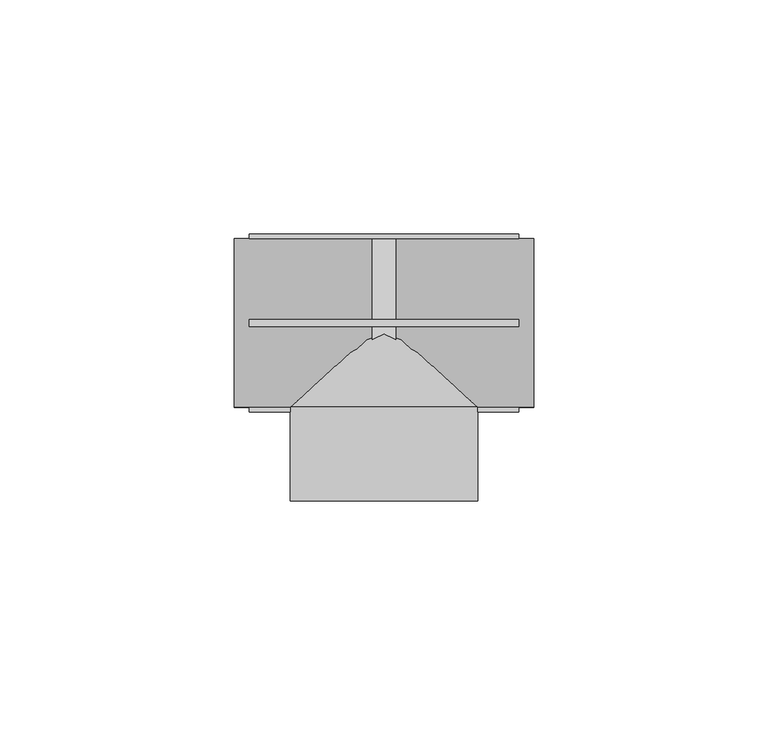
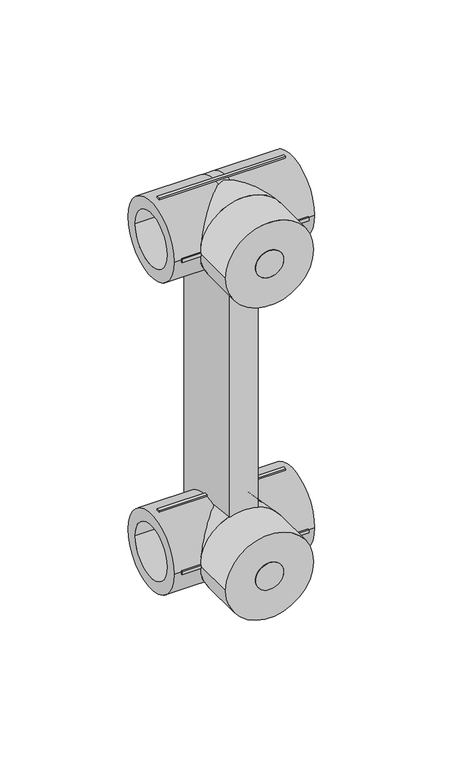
"""IFC4 building model written with IfcOpenShell, lengths in millimetres: pipe fitting geometry, EGB_VASEN_ PPR_Colector de conexion WXR307 : Colector de conexión WXR307."""

from ifc_helpers import new_model, si_unit, point, frame, frame_2d, origin, origin_2d, place, context, project, spatial, polyline, circle_curve, trimmed, segment, composite_curve, outline, extrude, source, transform, mapped, element, save
from ifc_brep_helpers import plane_surface, cylinder_surface, revolved_surface, advanced_brep


def pipe_fitting_d2e0c971(model_context):
    return source(origin(), model_context, "Body", "SolidModel", [
        extrude(outline(composite_curve([segment(trimmed(circle_curve(frame_2d((150.0, 0.0)), 6.35), [point((143.65, 0.0))], [point((156.35, 0.0))], False, "CARTESIAN"), True, "CONTINUOUS"), segment(trimmed(circle_curve(frame_2d((150.0, 0.0)), 6.35), [point((156.35, 0.0))], [point((143.65, 0.0))], False, "CARTESIAN"), True, "CONTINUOUS")], self_intersect=False)), frame((0.0, -38.0, 0.0), z_axis=(0.0, 1.0, 0.0), x_axis=(0.0, 0.0, 1.0)), (0.0, 0.0, 1.0), 20.0),
        advanced_brep(
        [(2.56, -12.5, 150.0), (2.56, 12.5, 150.0), (-2.56, 12.5, 150.0), (-2.56, -12.5, 150.0), (-2.56, 18.0, 150.0), (2.56, 18.0, 150.0), (2.56, -18.0, 150.0), (-2.56, -18.0, 150.0), (32.0, -18.0, 150.0), (32.0, 18.0, 150.0), (32.0, -12.5, 150.0), (32.0, 12.5, 150.0), (-32.0, -18.0, 150.0), (-32.0, 18.0, 150.0), (-32.0, -12.5, 150.0), (-32.0, 12.5, 150.0)],
        [
            (0, 1, circle_curve(frame((2.56, 0.0, 150.0), z_axis=(1.0, 0.0, 0.0), x_axis=(0.0, 1.0, 0.0)), 12.5)),
            (1, 0, circle_curve(frame((2.56, 0.0, 150.0), z_axis=(1.0, 0.0, 0.0), x_axis=(0.0, 1.0, 0.0)), 12.5)),
            (2, 3, circle_curve(frame((-2.56, 0.0, 150.0), z_axis=(-1.0, 0.0, 0.0), x_axis=(0.0, 1.0, 0.0)), 12.5)),
            (3, 2, circle_curve(frame((-2.56, 0.0, 150.0), z_axis=(-1.0, 0.0, 0.0), x_axis=(0.0, 1.0, 0.0)), 12.5)),
            (4, 5),
            (5, 6, circle_curve(frame((2.56, 0.0, 150.0), z_axis=(-1.0, 0.0, 0.0), x_axis=(0.0, 0.0, -1.0)), 18.0)),
            (6, 7),
            (7, 4, circle_curve(frame((-2.56, 0.0, 150.0), z_axis=(1.0, 0.0, 0.0), x_axis=(0.0, 0.0, -1.0)), 18.0)),
            (4, 7, circle_curve(frame((-2.56, 0.0, 150.0), z_axis=(1.0, 0.0, 0.0), x_axis=(0.0, 0.0, 1.0)), 18.0)),
            (6, 5, circle_curve(frame((2.56, 0.0, 150.0), z_axis=(-1.0, 0.0, 0.0), x_axis=(0.0, 0.0, 1.0)), 18.0)),
            (8, 9, circle_curve(frame((32.0, 0.0, 150.0), z_axis=(1.0, 0.0, 0.0), x_axis=(0.0, 1.0, 0.0)), 18.0)),
            (9, 8, circle_curve(frame((32.0, 0.0, 150.0), z_axis=(1.0, 0.0, 0.0), x_axis=(0.0, 1.0, 0.0)), 18.0)),
            (10, 11, circle_curve(frame((32.0, 0.0, 150.0), z_axis=(-1.0, 0.0, 0.0), x_axis=(0.0, 1.0, 0.0)), 12.5)),
            (11, 10, circle_curve(frame((32.0, 0.0, 150.0), z_axis=(-1.0, 0.0, 0.0), x_axis=(0.0, 1.0, 0.0)), 12.5)),
            (9, 5),
            (6, 8),
            (11, 1),
            (0, 10),
            (12, 13, circle_curve(frame((-32.0, 0.0, 150.0), z_axis=(-1.0, 0.0, 0.0), x_axis=(0.0, 1.0, 0.0)), 18.0)),
            (13, 12, circle_curve(frame((-32.0, 0.0, 150.0), z_axis=(-1.0, 0.0, 0.0), x_axis=(0.0, 1.0, 0.0)), 18.0)),
            (14, 15, circle_curve(frame((-32.0, 0.0, 150.0), z_axis=(1.0, 0.0, 0.0), x_axis=(0.0, 1.0, 0.0)), 12.5)),
            (15, 14, circle_curve(frame((-32.0, 0.0, 150.0), z_axis=(1.0, 0.0, 0.0), x_axis=(0.0, 1.0, 0.0)), 12.5)),
            (12, 7),
            (4, 13),
            (14, 3),
            (2, 15),
        ],
        [
            plane_surface(frame((2.56, 0.0, 150.0), z_axis=(1.0, 0.0, 0.0), x_axis=(0.0, 0.0, -1.0))),
            plane_surface(frame((-2.56, 0.0, 150.0), z_axis=(-1.0, 0.0, 0.0), x_axis=(0.0, 0.0, -1.0))),
            cylinder_surface(frame((-2.56, 0.0, 150.0), z_axis=(1.0, 0.0, 0.0), x_axis=(0.0, 0.0, -1.0)), 18.0),
            cylinder_surface(frame((-2.56, 0.0, 150.0), z_axis=(1.0, 0.0, 0.0), x_axis=(0.0, 0.0, 1.0)), 18.0),
            plane_surface(frame((32.0, 0.0, 150.0), z_axis=(1.0, 0.0, 0.0), x_axis=(0.0, 0.0, 1.0))),
            cylinder_surface(frame((2.56, 0.0, 150.0), z_axis=(-1.0, 0.0, 0.0), x_axis=(0.0, 1.0, 0.0)), 18.0),
            revolved_surface(polyline([(32.0, 12.5, 150.0), (2.56, 12.5, 150.0)]), (2.56, 0.0, 150.0), (1.0, 0.0, 0.0)),
            plane_surface(frame((-32.0, 0.0, 150.0), z_axis=(-1.0, 0.0, 0.0), x_axis=(0.0, 0.0, 1.0))),
            cylinder_surface(frame((-32.0, 0.0, 150.0), z_axis=(-1.0, 0.0, 0.0), x_axis=(0.0, 1.0, 0.0)), 18.0),
            revolved_surface(polyline([(-2.5599999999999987, 12.5, 150.0), (-32.0, 12.5, 150.0)]), (-32.0, 0.0, 150.0), (1.0, 0.0, 0.0)),
        ],
        [
            (0, [[1, 2]]),
            (1, [[3, 4]]),
            (2, [[5, 6, 7, 8]]),
            (3, [[-5, 9, -7, 10]]),
            (4, [[11, 12], [13, 14]]),
            (5, [[-12, 15, -10, 16]]),
            (5, [[-11, -16, -6, -15]]),
            (6, [[-14, 17, -1, 18]]),
            (6, [[-13, -18, -2, -17]]),
            (7, [[19, 20], [21, 22]]),
            (8, [[-19, 23, -9, 24]]),
            (8, [[-20, -24, -8, -23]]),
            (9, [[-21, 25, -3, 26]]),
            (9, [[-22, -26, -4, -25]]),
        ],
    ),
        extrude(outline(composite_curve([segment(trimmed(circle_curve(frame_2d((150.0, 0.0)), 20.0), [point((150.0, 20.0))], [point((150.0, -20.0))], False, "CARTESIAN"), True, "CONTINUOUS"), segment(trimmed(circle_curve(frame_2d((150.0, 0.0)), 20.0), [point((150.0, -20.0))], [point((150.0, 20.0))], False, "CARTESIAN"), True, "CONTINUOUS")], self_intersect=False), holes=[composite_curve([segment(trimmed(circle_curve(frame_2d((150.0, 0.0)), 6.35), [point((150.0, 6.35))], [point((150.0, -6.35))], True, "CARTESIAN"), True, "CONTINUOUS"), segment(trimmed(circle_curve(frame_2d((150.0, 0.0)), 6.35), [point((150.0, -6.35))], [point((150.0, 6.35))], True, "CARTESIAN"), True, "CONTINUOUS")], self_intersect=False)]), frame((0.0, -38.0, 0.0), z_axis=(0.0, 1.0, 0.0), x_axis=(0.0, 0.0, 1.0)), (0.0, 0.0, 1.0), 20.0),
        advanced_brep(
        [(18.0, 0.0, 150.0), (-18.0, 0.0, 150.0), (20.0, -18.0, 150.0), (-20.0, -18.0, 150.0)],
        [
            (0, 1, circle_curve(frame((0.0, 0.0, 150.0), z_axis=(0.0, 1.0, 0.0), x_axis=(1.0, 0.0, 0.0)), 18.0)),
            (1, 0, circle_curve(frame((0.0, 0.0, 150.0), z_axis=(0.0, 1.0, 0.0), x_axis=(-1.0, 0.0, 0.0)), 18.0)),
            (2, 3, circle_curve(frame((0.0, -18.0, 150.0), z_axis=(0.0, -1.0, 0.0), x_axis=(-1.0, 0.0, 0.0)), 20.0)),
            (3, 2, circle_curve(frame((0.0, -18.0, 150.0), z_axis=(0.0, -1.0, 0.0), x_axis=(1.0, 0.0, 0.0)), 20.0)),
            (3, 1),
            (0, 2),
        ],
        [
            plane_surface(frame((0.0, 0.0, 150.0), z_axis=(0.0, 1.0, 0.0), x_axis=(0.0, 0.0, -1.0))),
            plane_surface(frame((0.0, -18.0, 150.0), z_axis=(0.0, -1.0, 0.0), x_axis=(0.0, 0.0, -1.0))),
            revolved_surface(polyline([(18.0, 0.0, 150.0), (20.0, -18.0, 150.0)]), (0.0, 162.0, 150.0), (0.0, -1.0, 0.0)),
            revolved_surface(polyline([(-18.0, 0.0, 150.0), (-20.0, -18.0, 150.0)]), (0.0, 162.0, 150.0), (0.0, -1.0, 0.0)),
        ],
        [
            (0, [[1, 2]]),
            (1, [[3, 4]]),
            (2, [[-4, 5, -1, 6]]),
            (3, [[-3, -6, -2, -5]]),
        ],
    ),
        extrude(outline(polyline([(28.8, 0.75), (28.8, -0.75), (-28.8, -0.75), (-28.8, 0.75), (28.8, 0.75)])), frame((0.0, 0.0, 167.0), z_axis=(0.0, 0.0, 1.0), x_axis=(1.0, 0.0, 0.0)), (0.0, 0.0, 1.0), 2.0),
        extrude(outline(polyline([(28.8, 0.75), (28.8, -0.75), (-28.8, -0.75), (-28.8, 0.75), (28.8, 0.75)])), frame((0.0, 0.0, 131.0), z_axis=(0.0, 0.0, 1.0), x_axis=(1.0, 0.0, 0.0)), (0.0, 0.0, 1.0), 2.0),
        extrude(outline(polyline([(28.8, 19.0), (28.8, 17.0), (-28.8, 17.0), (-28.8, 19.0), (28.8, 19.0)])), frame((0.0, 0.0, 149.25), z_axis=(0.0, 0.0, 1.0), x_axis=(1.0, 0.0, 0.0)), (0.0, 0.0, 1.0), 1.5),
        extrude(outline(polyline([(28.8, -17.0), (28.8, -19.0), (-28.8, -19.0), (-28.8, -17.0), (28.8, -17.0)])), frame((0.0, 0.0, 149.25), z_axis=(0.0, 0.0, 1.0), x_axis=(1.0, 0.0, 0.0)), (0.0, 0.0, 1.0), 1.5),
        extrude(outline(polyline([(6.35, -18.0), (-6.6255531, -18.0), (-6.6255531, 18.0), (6.35, 18.0), (6.35, -18.0)])), frame((0.0, 0.0, 0.75), z_axis=(0.0, 0.0, 1.0), x_axis=(1.0, 0.0, 0.0)), (0.0, 0.0, 1.0), 149.25),
        extrude(outline(composite_curve([segment(trimmed(circle_curve(origin_2d(), 6.35), [point((-6.35, 0.0))], [point((6.35, 0.0))], False, "CARTESIAN"), True, "CONTINUOUS"), segment(trimmed(circle_curve(origin_2d(), 6.35), [point((6.35, 0.0))], [point((-6.35, 0.0))], False, "CARTESIAN"), True, "CONTINUOUS")], self_intersect=False)), frame((0.0, -38.0, 0.0), z_axis=(0.0, 1.0, 0.0), x_axis=(0.0, 0.0, 1.0)), (0.0, 0.0, 1.0), 20.0),
        advanced_brep(
        [(2.56, -12.5, 0.0), (2.56, 12.5, 0.0), (-2.56, 12.5, 0.0), (-2.56, -12.5, 0.0), (-2.56, 18.0, 0.0), (2.56, 18.0, 0.0), (2.56, -18.0, 0.0), (-2.56, -18.0, 0.0), (32.0, -18.0, 0.0), (32.0, 18.0, 0.0), (32.0, -12.5, 0.0), (32.0, 12.5, 0.0), (-32.0, -18.0, 0.0), (-32.0, 18.0, 0.0), (-32.0, -12.5, 0.0), (-32.0, 12.5, 0.0)],
        [
            (0, 1, circle_curve(frame((2.56, 0.0, 0.0), z_axis=(1.0, 0.0, 0.0), x_axis=(0.0, 1.0, 0.0)), 12.5)),
            (1, 0, circle_curve(frame((2.56, 0.0, 0.0), z_axis=(1.0, 0.0, 0.0), x_axis=(0.0, 1.0, 0.0)), 12.5)),
            (2, 3, circle_curve(frame((-2.56, 0.0, 0.0), z_axis=(-1.0, 0.0, 0.0), x_axis=(0.0, 1.0, 0.0)), 12.5)),
            (3, 2, circle_curve(frame((-2.56, 0.0, 0.0), z_axis=(-1.0, 0.0, 0.0), x_axis=(0.0, 1.0, 0.0)), 12.5)),
            (4, 5),
            (5, 6, circle_curve(frame((2.56, 0.0, 0.0), z_axis=(-1.0, 0.0, 0.0), x_axis=(0.0, 0.0, -1.0)), 18.0)),
            (6, 7),
            (7, 4, circle_curve(frame((-2.56, 0.0, 0.0), z_axis=(1.0, 0.0, 0.0), x_axis=(0.0, 0.0, -1.0)), 18.0)),
            (4, 7, circle_curve(frame((-2.56, 0.0, 0.0), z_axis=(1.0, 0.0, 0.0), x_axis=(0.0, 0.0, 1.0)), 18.0)),
            (6, 5, circle_curve(frame((2.56, 0.0, 0.0), z_axis=(-1.0, 0.0, 0.0), x_axis=(0.0, 0.0, 1.0)), 18.0)),
            (8, 9, circle_curve(frame((32.0, 0.0, 0.0), z_axis=(1.0, 0.0, 0.0), x_axis=(0.0, 1.0, 0.0)), 18.0)),
            (9, 8, circle_curve(frame((32.0, 0.0, 0.0), z_axis=(1.0, 0.0, 0.0), x_axis=(0.0, 1.0, 0.0)), 18.0)),
            (10, 11, circle_curve(frame((32.0, 0.0, 0.0), z_axis=(-1.0, 0.0, 0.0), x_axis=(0.0, 1.0, 0.0)), 12.5)),
            (11, 10, circle_curve(frame((32.0, 0.0, 0.0), z_axis=(-1.0, 0.0, 0.0), x_axis=(0.0, 1.0, 0.0)), 12.5)),
            (9, 5),
            (6, 8),
            (11, 1),
            (0, 10),
            (12, 13, circle_curve(frame((-32.0, 0.0, 0.0), z_axis=(-1.0, 0.0, 0.0), x_axis=(0.0, 1.0, 0.0)), 18.0)),
            (13, 12, circle_curve(frame((-32.0, 0.0, 0.0), z_axis=(-1.0, 0.0, 0.0), x_axis=(0.0, 1.0, 0.0)), 18.0)),
            (14, 15, circle_curve(frame((-32.0, 0.0, 0.0), z_axis=(1.0, 0.0, 0.0), x_axis=(0.0, 1.0, 0.0)), 12.5)),
            (15, 14, circle_curve(frame((-32.0, 0.0, 0.0), z_axis=(1.0, 0.0, 0.0), x_axis=(0.0, 1.0, 0.0)), 12.5)),
            (12, 7),
            (4, 13),
            (14, 3),
            (2, 15),
        ],
        [
            plane_surface(frame((2.56, 0.0, 0.0), z_axis=(1.0, 0.0, 0.0), x_axis=(0.0, 0.0, -1.0))),
            plane_surface(frame((-2.56, 0.0, 0.0), z_axis=(-1.0, 0.0, 0.0), x_axis=(0.0, 0.0, -1.0))),
            cylinder_surface(frame((-2.56, 0.0, 0.0), z_axis=(1.0, 0.0, 0.0), x_axis=(0.0, 0.0, -1.0)), 18.0),
            cylinder_surface(frame((-2.56, 0.0, 0.0), z_axis=(1.0, 0.0, 0.0), x_axis=(0.0, 0.0, 1.0)), 18.0),
            plane_surface(frame((32.0, 0.0, 0.0), z_axis=(1.0, 0.0, 0.0), x_axis=(0.0, 0.0, 1.0))),
            cylinder_surface(frame((2.56, 0.0, 0.0), z_axis=(-1.0, 0.0, 0.0), x_axis=(0.0, 1.0, 0.0)), 18.0),
            revolved_surface(polyline([(32.0, 12.5, 0.0), (2.56, 12.5, 0.0)]), (2.56, 0.0, 0.0), (1.0, 0.0, 0.0)),
            plane_surface(frame((-32.0, 0.0, 0.0), z_axis=(-1.0, 0.0, 0.0), x_axis=(0.0, 0.0, 1.0))),
            cylinder_surface(frame((-32.0, 0.0, 0.0), z_axis=(-1.0, 0.0, 0.0), x_axis=(0.0, 1.0, 0.0)), 18.0),
            revolved_surface(polyline([(-2.5599999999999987, 12.5, 0.0), (-32.0, 12.5, 0.0)]), (-32.0, 0.0, 0.0), (1.0, 0.0, 0.0)),
        ],
        [
            (0, [[1, 2]]),
            (1, [[3, 4]]),
            (2, [[5, 6, 7, 8]]),
            (3, [[-5, 9, -7, 10]]),
            (4, [[11, 12], [13, 14]]),
            (5, [[-12, 15, -10, 16]]),
            (5, [[-11, -16, -6, -15]]),
            (6, [[-14, 17, -1, 18]]),
            (6, [[-13, -18, -2, -17]]),
            (7, [[19, 20], [21, 22]]),
            (8, [[-19, 23, -9, 24]]),
            (8, [[-20, -24, -8, -23]]),
            (9, [[-21, 25, -3, 26]]),
            (9, [[-22, -26, -4, -25]]),
        ],
    ),
        extrude(outline(composite_curve([segment(trimmed(circle_curve(origin_2d(), 20.0), [point((0.0, 20.0))], [point((0.0, -20.0))], False, "CARTESIAN"), True, "CONTINUOUS"), segment(trimmed(circle_curve(origin_2d(), 20.0), [point((0.0, -20.0))], [point((0.0, 20.0))], False, "CARTESIAN"), True, "CONTINUOUS")], self_intersect=False), holes=[composite_curve([segment(trimmed(circle_curve(origin_2d(), 6.35), [point((0.0, 6.35))], [point((0.0, -6.35))], True, "CARTESIAN"), True, "CONTINUOUS"), segment(trimmed(circle_curve(origin_2d(), 6.35), [point((0.0, -6.35))], [point((0.0, 6.35))], True, "CARTESIAN"), True, "CONTINUOUS")], self_intersect=False)]), frame((0.0, -38.0, 0.0), z_axis=(0.0, 1.0, 0.0), x_axis=(0.0, 0.0, 1.0)), (0.0, 0.0, 1.0), 20.0),
        advanced_brep(
        [(18.0, 0.0, 0.0), (-18.0, 0.0, 0.0), (20.0, -18.0, 0.0), (-20.0, -18.0, 0.0)],
        [
            (0, 1, circle_curve(frame((0.0, 0.0, 0.0), z_axis=(0.0, 1.0, 0.0), x_axis=(1.0, 0.0, 0.0)), 18.0)),
            (1, 0, circle_curve(frame((0.0, 0.0, 0.0), z_axis=(0.0, 1.0, 0.0), x_axis=(-1.0, 0.0, 0.0)), 18.0)),
            (2, 3, circle_curve(frame((0.0, -18.0, 0.0), z_axis=(0.0, -1.0, 0.0), x_axis=(-1.0, 0.0, 0.0)), 20.0)),
            (3, 2, circle_curve(frame((0.0, -18.0, 0.0), z_axis=(0.0, -1.0, 0.0), x_axis=(1.0, 0.0, 0.0)), 20.0)),
            (3, 1),
            (0, 2),
        ],
        [
            plane_surface(frame((0.0, 0.0, 0.0), z_axis=(0.0, 1.0, 0.0), x_axis=(0.0, 0.0, -1.0))),
            plane_surface(frame((0.0, -18.0, 0.0), z_axis=(0.0, -1.0, 0.0), x_axis=(0.0, 0.0, -1.0))),
            revolved_surface(polyline([(18.0, 0.0, 0.0), (20.0, -18.0, 0.0)]), (0.0, 162.0, 0.0), (0.0, -1.0, 0.0)),
            revolved_surface(polyline([(-18.0, 0.0, 0.0), (-20.0, -18.0, 0.0)]), (0.0, 162.0, 0.0), (0.0, -1.0, 0.0)),
        ],
        [
            (0, [[1, 2]]),
            (1, [[3, 4]]),
            (2, [[-4, 5, -1, 6]]),
            (3, [[-3, -6, -2, -5]]),
        ],
    ),
        extrude(outline(polyline([(28.8, 0.75), (28.8, -0.75), (-28.8, -0.75), (-28.8, 0.75), (28.8, 0.75)])), frame((0.0, 0.0, 17.0), z_axis=(0.0, 0.0, 1.0), x_axis=(1.0, 0.0, 0.0)), (0.0, 0.0, 1.0), 2.0),
        extrude(outline(polyline([(28.8, 0.75), (28.8, -0.75), (-28.8, -0.75), (-28.8, 0.75), (28.8, 0.75)])), frame((0.0, 0.0, -19.0), z_axis=(0.0, 0.0, 1.0), x_axis=(1.0, 0.0, 0.0)), (0.0, 0.0, 1.0), 2.0),
        extrude(outline(polyline([(28.8, 19.0), (28.8, 17.0), (-28.8, 17.0), (-28.8, 19.0), (28.8, 19.0)])), frame((0.0, 0.0, -0.75), z_axis=(0.0, 0.0, 1.0), x_axis=(1.0, 0.0, 0.0)), (0.0, 0.0, 1.0), 1.5),
        extrude(outline(polyline([(28.8, -17.0), (28.8, -19.0), (-28.8, -19.0), (-28.8, -17.0), (28.8, -17.0)])), frame((0.0, 0.0, -0.75), z_axis=(0.0, 0.0, 1.0), x_axis=(1.0, 0.0, 0.0)), (0.0, 0.0, 1.0), 1.5),
    ])


if __name__ == "__main__":
    model = new_model("IFC4")
    model_context = context("Model", 3, world=origin())
    ifc_project = project(units=[si_unit("LENGTHUNIT", "METRE", prefix="MILLI")], contexts=[model_context])
    site = spatial("IfcSite", under=ifc_project)
    building = spatial("IfcBuilding", under=site)
    placement = place(None, origin())
    pipe_fitting_shape = pipe_fitting_d2e0c971(model_context)
    element("IfcPipeFitting", 1, ObjectType="EGB_VASEN_ PPR_Colector de conexion WXR307 : Colector de conexión WXR307", at=placement, inside=building, context=model_context, shape_type="MappedRepresentation", body=[
        mapped(pipe_fitting_shape, transform((0.0, 0.0, 0.0), x_axis=(1.0, 0.0, 0.0), y_axis=(0.0, 1.0, 0.0), z_axis=(0.0, 0.0, 1.0))),
    ])
    save(model, "model.ifc")
